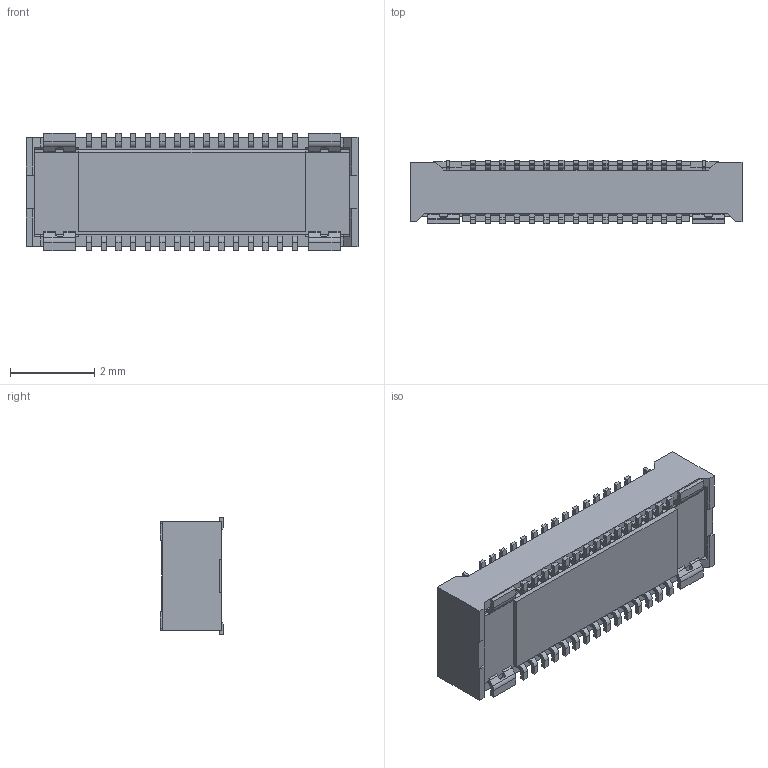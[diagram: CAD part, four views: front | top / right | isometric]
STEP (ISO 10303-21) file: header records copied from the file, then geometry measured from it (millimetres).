
FILE_DESCRIPTION (( 'STEP AP203' ), '1' );
FILE_NAME ('20842-030E-21+20843-030E-21 for MATING STEP.STEP', '2018-07-04T05:18:58', ( '' ), ( '' ), 'SwSTEP 2.0', 'SolidWorks 2017', '' );
FILE_SCHEMA (( 'CONFIG_CONTROL_DESIGN' ));
Length unit declared in the file: millimetre
Products named in the file (1): 20842-030E-21+20843-030E-21 for MATING STEP
Bounding box: 7.9 x 1.5 x 2.8 mm (x, y, z)
Volume: 26.8 mm3; surface area: 89.3 mm2
Topology: 1 solids, 1 shells, 850 faces, 2467 edges, 1642 vertices
Faces by surface type: plane 622, cylinder 228
Entity records: 27952 total; most frequent: CARTESIAN_POINT 4984, ORIENTED_EDGE 4934, DIRECTION 4613, EDGE_CURVE 2467, LINE 2007, VECTOR 2007, VERTEX_POINT 1642, AXIS2_PLACEMENT_3D 1303
